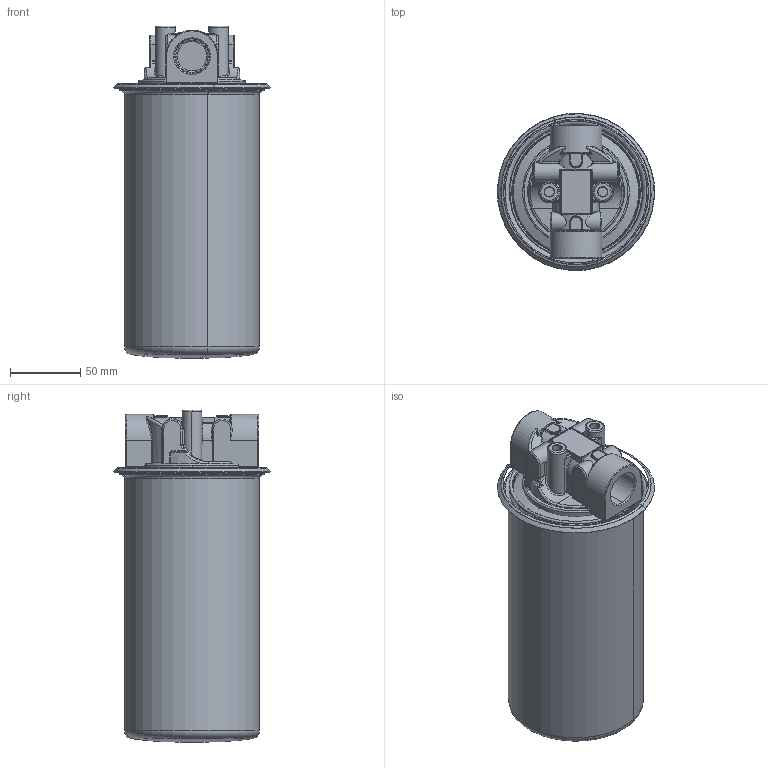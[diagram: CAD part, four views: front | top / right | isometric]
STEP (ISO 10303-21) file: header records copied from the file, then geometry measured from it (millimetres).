
FILE_DESCRIPTION (( 'STEP AP203' ), '1' );
FILE_NAME ('OMTI06.STEP', '2016-02-04T09:57:19', ( '' ), ( '' ), 'SwSTEP 2.0', 'SolidWorks 2015', '' );
FILE_SCHEMA (( 'CONFIG_CONTROL_DESIGN' ));
Length unit declared in the file: millimetre
Products named in the file (4): T05; CS06-02B; CS06-01-CL; OMTI06
Assembly tree (3 placements, depth 2):
  OMTI06
    T05
    CS06-02B
    CS06-01-CL
Bounding box: 111.81 x 111.81 x 236.5 mm (x, y, z)
Volume: 139692.2 mm3; surface area: 181838.1 mm2
Topology: 9 solids, 12 shells, 625 faces, 1541 edges, 883 vertices
Faces by surface type: bspline 291, cylinder 186, plane 100, torus 38, cone 10
Entity records: 54904 total; most frequent: CARTESIAN_POINT 42987, ORIENTED_EDGE 2978, EDGE_CURVE 1489, DIRECTION 1316, B_SPLINE_CURVE_WITH_KNOTS 973, VERTEX_POINT 883, EDGE_LOOP 638, ADVANCED_FACE 625
